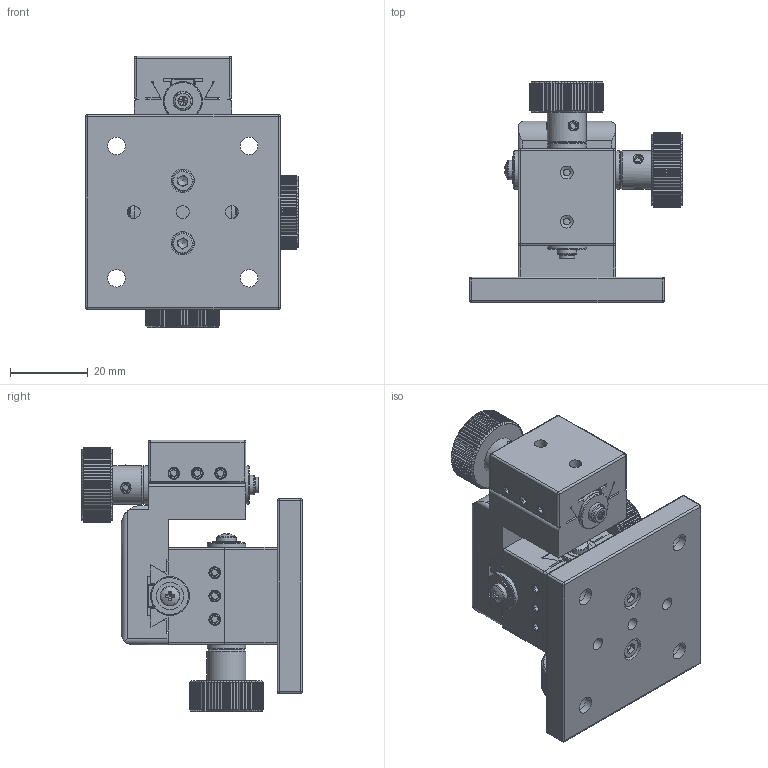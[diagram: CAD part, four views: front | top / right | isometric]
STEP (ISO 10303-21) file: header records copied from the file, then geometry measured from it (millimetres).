
FILE_DESCRIPTION (( 'STEP AP203' ), '1' );
FILE_NAME ('TPV25XYZ-05R.STEP', '2023-06-02T02:21:36', ( '' ), ( '' ), 'SwSTEP 2.0', 'SolidWorks 2019', '' );
FILE_SCHEMA (( 'CONFIG_CONTROL_DESIGN' ));
Products named in the file (1): TPV25XYZ-05R
Bounding box: 54.7 x 56.69 x 69.7 mm (x, y, z)
Volume: 60988.5 mm3; surface area: 29102.3 mm2
Topology: 3 solids, 13 shells, 1515 faces, 3953 edges, 2518 vertices
Faces by surface type: plane 962, cylinder 433, cone 75, sphere 40, torus 5
Full cylindrical faces by diameter (mm): 1.7 x2, 2.05 x2, 2.5 x7, 2.8 x2, 3 x20, 3.2 x3, 3.3 x5, 3.5 x2, 3.75 x3, 4 x7, 4.1 x6, 4.2 x6, 4.5 x4, 5 x10, 5.5 x2, 6 x2, 7 x2, 7.5 x4, 9.9 x12, 10 x3
Entity records: 45886 total; most frequent: CARTESIAN_POINT 11139, ORIENTED_EDGE 7362, DIRECTION 6667, EDGE_CURVE 3681, AXIS2_PLACEMENT_3D 2471, VERTEX_POINT 2443, EDGE_LOOP 1808, VECTOR 1725
